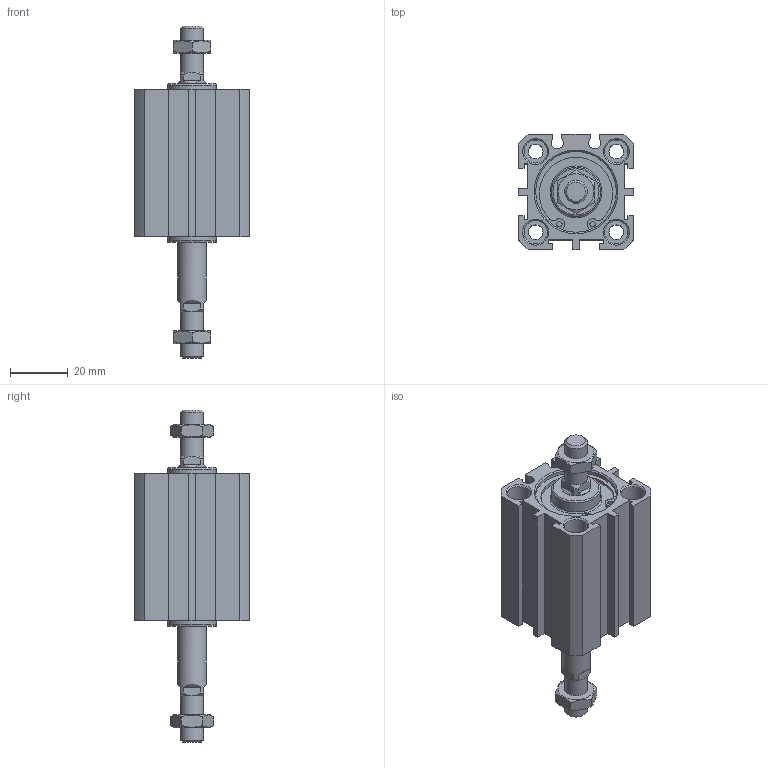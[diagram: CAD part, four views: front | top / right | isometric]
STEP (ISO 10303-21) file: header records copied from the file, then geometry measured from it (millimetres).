
FILE_DESCRIPTION((''),'2;1');
FILE_NAME('I:\3D電子目錄\氣缸\JDD\JDD-BS\JDD25-BS\JDD25x20-BS.stp','2007-02-27T13:44:24',('662F206'),(''),'Autodesk Inventor 10','Autodesk Inventor 10','');
FILE_SCHEMA(('AUTOMOTIVE_DESIGN { 1 0 10303 214 1 1 1 1 }'));
Length unit declared in the file: millimetre
Products named in the file (3): JDD25-BS; R 形環 28
Assembly tree (3 placements, depth 2):
  JDD25-BS
    JDD25-BS
    R 形環 28  x2
Bounding box: 40 x 40 x 115.2 mm (x, y, z)
Volume: 68672.1 mm3; surface area: 22843.9 mm2
Topology: 3 solids, 3 shells, 192 faces, 454 edges, 294 vertices
Faces by surface type: plane 108, cylinder 50, cone 26, bspline 6, torus 2
Full cylindrical faces by diameter (mm): 1.5 x2, 1.9 x4, 5.1 x4, 8 x12, 10 x2, 17 x2, 28 x4, 29.4 x2
Entity records: 4989 total; most frequent: CARTESIAN_POINT 1022, DIRECTION 812, ORIENTED_EDGE 724, EDGE_CURVE 362, AXIS2_PLACEMENT_3D 310, EDGE_LOOP 272, VERTEX_POINT 266, VECTOR 192
